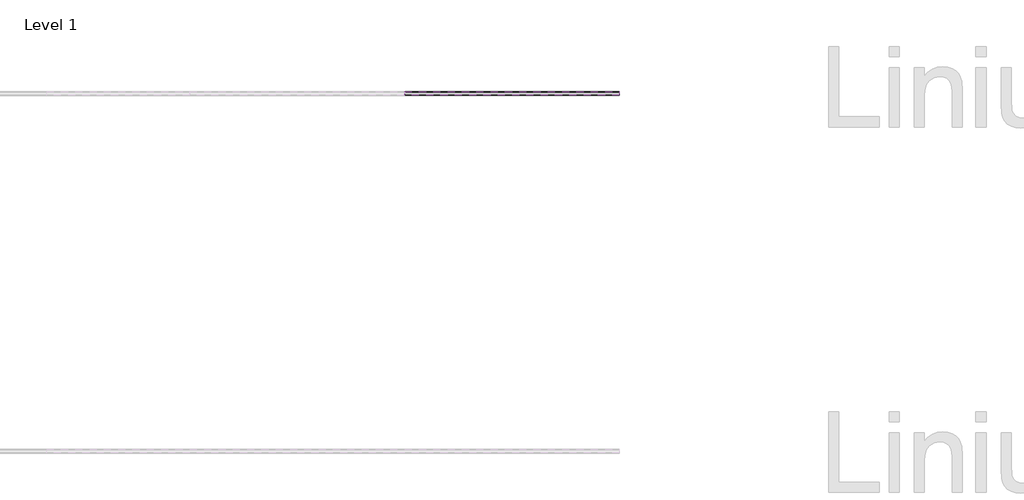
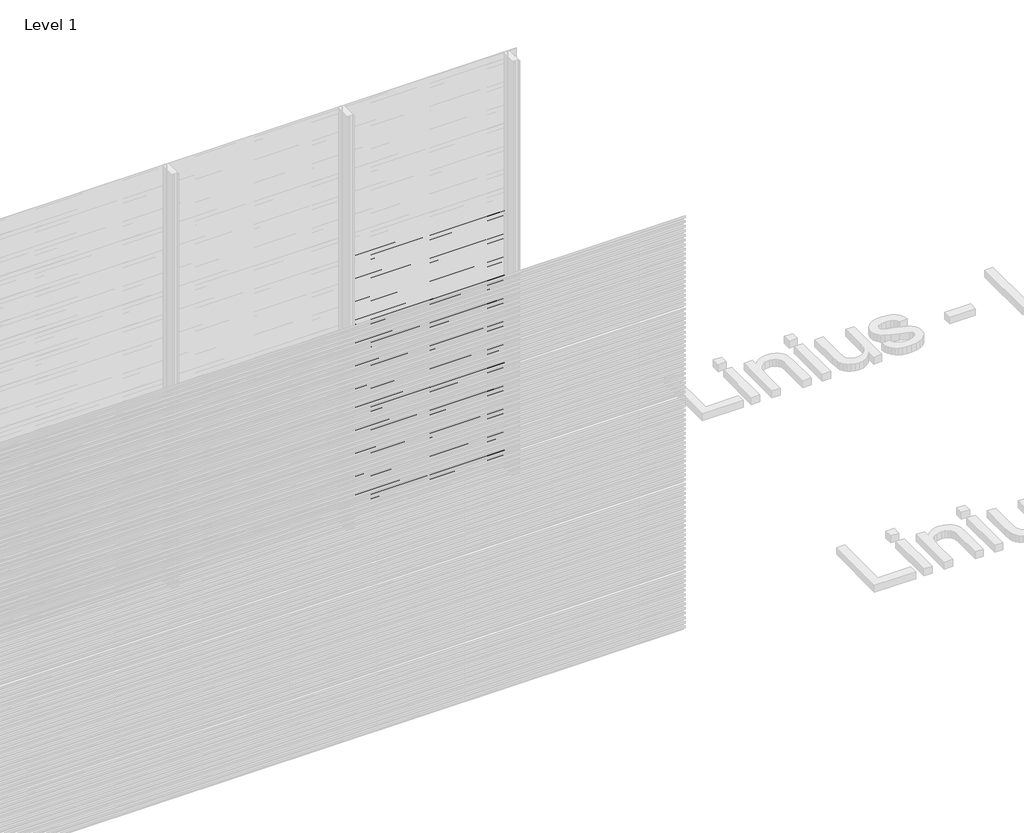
# One storey, part 28 of 507: 58 proxies.
"""IFC4 building model written with IfcOpenShell, lengths in millimetres."""

import ifcopenshell
import ifcopenshell.guid

model = None  # the IFC model being written
_history = None  # IfcOwnerHistory: only IFC2X3 demands one
_inside = {}  # id of a spatial element -> (the spatial element, [elements in it])
_under = {}  # id of a project, library or spatial element -> (it, [spatial elements below it])
_declared = {}  # id of a project -> (the project, [libraries it declares])
_typed = {}  # id of a type object -> (the type object, [elements of that type])
_made_of = {}  # id of a material, layer set ... -> (it, [elements and type objects made of it])


def new_model(schema):
    """Start an empty IFC model of exactly this schema.

    Asked for "IFC4X3", IfcOpenShell would pick the latest addendum, in which some entities
    have other attributes; the version numbers below select the first issue.
    IFC2X3 requires an IfcOwnerHistory on every rooted entity: one is made here for all.
    """
    global model, _history
    if schema == "IFC4X3":
        model = ifcopenshell.file(schema_version=(4, 3, 0, 0))
    else:
        model = ifcopenshell.file(schema=schema)
    _inside.clear()
    _under.clear()
    _declared.clear()
    _typed.clear()
    _made_of.clear()
    _history = None
    if model.schema == "IFC2X3":
        org = make("IfcOrganization", Name="unknown")
        user = make(
            "IfcPersonAndOrganization",
            ThePerson=make("IfcPerson", FamilyName="unknown"),
            TheOrganization=org,
        )
        app = make(
            "IfcApplication",
            ApplicationDeveloper=org,
            Version="unknown",
            ApplicationFullName="unknown",
            ApplicationIdentifier="unknown",
        )
        _history = make(
            "IfcOwnerHistory",
            OwningUser=user,
            OwningApplication=app,
            ChangeAction="ADDED",
            CreationDate=0,
        )
    return model


def make(cls, **values):
    """One entity of the class cls with the attributes given. An attribute that is None is left unset."""
    return model.create_entity(
        cls, **{name: value for name, value in values.items() if value is not None}
    )


def rooted(cls, **values):
    """An entity with a GlobalId (a new one), such as an element, a storey or a relation."""
    return make(cls, GlobalId=ifcopenshell.guid.new(), OwnerHistory=_history, **values)


def si_unit(unit_type, name, prefix=None):
    """IfcSIUnit, for example si_unit("LENGTHUNIT", "METRE", prefix="MILLI")."""
    return make("IfcSIUnit", UnitType=unit_type, Prefix=prefix, Name=name)


def assignment(units):
    """IfcUnitAssignment: the units of a project."""
    return None if units is None else make("IfcUnitAssignment", Units=units)


def point(xyz):
    """IfcCartesianPoint."""
    return None if xyz is None else make("IfcCartesianPoint", Coordinates=xyz)


def direction(xyz):
    """IfcDirection."""
    return None if xyz is None else make("IfcDirection", DirectionRatios=xyz)


def frame(location, z_axis=None, x_axis=None):
    """IfcAxis2Placement3D, a coordinate frame: its origin and axes. An axis left out is left unset."""
    return make(
        "IfcAxis2Placement3D",
        Location=point(location),
        Axis=direction(z_axis),
        RefDirection=direction(x_axis),
    )


def origin():
    """The frame at (0, 0, 0) with its axes left unset."""
    return frame((0.0, 0.0, 0.0))


def place(relative_to, where):
    """IfcLocalPlacement: puts the frame where relative to a parent placement (None: the world)."""
    return make(
        "IfcLocalPlacement", PlacementRelTo=relative_to, RelativePlacement=where
    )


def context(
    kind, dimensions, precision=None, world=None, true_north=None, identifier=None
):
    """IfcGeometricRepresentationContext, for example the 3D "Model" context."""
    return make(
        "IfcGeometricRepresentationContext",
        ContextIdentifier=identifier,
        ContextType=kind,
        CoordinateSpaceDimension=dimensions,
        Precision=precision,
        WorldCoordinateSystem=world,
        TrueNorth=true_north,
    )


def project(units=None, contexts=None):
    """IfcProject with its units and contexts."""
    return rooted(
        "IfcProject",
        Name="project",
        RepresentationContexts=contexts,
        UnitsInContext=assignment(units),
    )


def spatial(cls, under=None, at=None, **own):
    """A site, building, storey or space (cls), placed at a placement, below another one or the project."""
    s = rooted(cls, ObjectPlacement=at, **own)
    if under is not None:
        _under.setdefault(under.id(), (under, []))[1].append(s)
    return s


def polyline(points):
    """IfcPolyline through the points."""
    return make("IfcPolyline", Points=[point(p) for p in points])


def outline(outer, holes=None, kind="AREA"):
    """IfcArbitraryClosedProfileDef: a profile drawn as a closed curve; with holes, ...WithVoids."""
    if holes is None:
        return make("IfcArbitraryClosedProfileDef", ProfileType=kind, OuterCurve=outer)
    return make(
        "IfcArbitraryProfileDefWithVoids",
        ProfileType=kind,
        OuterCurve=outer,
        InnerCurves=holes,
    )


def extrude(swept, where, along, depth):
    """IfcExtrudedAreaSolid: the profile swept, set in the frame where, extruded along a direction by depth."""
    return make(
        "IfcExtrudedAreaSolid",
        SweptArea=swept,
        Position=where,
        ExtrudedDirection=direction(along),
        Depth=depth,
    )


def shape(context_of_items, identifier, shape_type, items):
    """IfcShapeRepresentation: the items that make up one representation, for example the "Body"."""
    return make(
        "IfcShapeRepresentation",
        ContextOfItems=context_of_items,
        RepresentationIdentifier=identifier,
        RepresentationType=shape_type,
        Items=items,
    )


def made_of(thing, what):
    """Note that an element or type object is made of a material, layer set ...; save() writes the relation."""
    if what is not None:
        _made_of.setdefault(what.id(), (what, []))[1].append(thing)
    return thing


def element(
    cls,
    number,
    at=None,
    inside=None,
    cuts=None,
    type_object=None,
    material=None,
    context=None,
    identifier="Body",
    shape_type=None,
    held_by="IfcProductDefinitionShape",
    body=None,
    shapes=None,
    **own,
):
    """One element of the class cls, such as IfcWall. Its Tag is "e" and its number.

    at: its placement. inside: the storey or other place that contains it. cuts: it is an
    opening in that element (IfcRelVoidsElement). A single representation is given by context,
    identifier, shape_type and body (its items); several are given by shapes. held_by: the class
    of the entity that holds the representations. save() writes the other relations.
    """
    e = rooted(cls, Tag="e%d" % number, ObjectPlacement=at, **own)
    if body is not None:
        shapes = [shape(context, identifier, shape_type, body)]
    if shapes is not None:
        e.Representation = make(held_by, Representations=shapes)
    if inside is not None:
        _inside.setdefault(inside.id(), (inside, []))[1].append(e)
    if cuts is not None:
        rooted(
            "IfcRelVoidsElement", RelatingBuildingElement=cuts, RelatedOpeningElement=e
        )
    if type_object is not None:
        _typed.setdefault(type_object.id(), (type_object, []))[1].append(e)
    return made_of(e, material)


def aggregate(whole, parts):
    """IfcRelAggregates: a whole, such as a stair, and the parts it consists of."""
    return rooted("IfcRelAggregates", RelatingObject=whole, RelatedObjects=parts)


def save(model, path):
    """Write the relations noted so far, then the file.

    IfcRelAggregates (storeys below a building ...), IfcRelContainedInSpatialStructure (elements
    in a storey), IfcRelDefinesByType, IfcRelAssociatesMaterial and IfcRelDeclares: one each for
    every whole, place, type object, material and project.
    """
    for whole, parts in _under.values():
        aggregate(whole, parts)
    for where, things in _inside.values():
        rooted(
            "IfcRelContainedInSpatialStructure",
            RelatedElements=things,
            RelatingStructure=where,
        )
    for kind, things in _typed.values():
        rooted("IfcRelDefinesByType", RelatedObjects=things, RelatingType=kind)
    for what, things in _made_of.values():
        rooted("IfcRelAssociatesMaterial", RelatedObjects=things, RelatingMaterial=what)
    for by, libraries in _declared.values():
        rooted("IfcRelDeclares", RelatingContext=by, RelatedDefinitions=libraries)
    model.write(path)


model = new_model("IFC4")

# Units and contexts
model_context = context("Model", 3, world=origin())
ifc_project = project(units=[si_unit("LENGTHUNIT", "METRE", prefix="MILLI")], contexts=[model_context])

# Site, building, storey
site = spatial("IfcSite", under=ifc_project)
building = spatial("IfcBuilding", under=site)
storey = spatial("IfcBuildingStorey", under=building, Name="Level 1", Elevation=0.0)

# Proxies
placement = place(None, origin())
element("IfcBuildingElementProxy", 1, Name="Wall Sweeps", at=placement, inside=storey, context=model_context, shape_type="SweptSolid", body=[
    extrude(outline(polyline([(14003.4540136, 1907.4), (14003.4540136, 1893.9), (14002.2040136, 1894.6216933), (14002.2040136, 1906.6782281), (13983.0540136, 1917.7345698), (13983.0540136, 1931.4), (13984.3040136, 1931.4), (13984.3040136, 1918.4562577), (14003.4540136, 1907.4)])), frame((49766.6208095, 0.0, 0.0), z_axis=(1.0, 0.0, 0.0), x_axis=(0.0, 1.0, 0.0)), (0.0, 0.0, 1.0), 1200.0000002),
])
element("IfcBuildingElementProxy", 2, Name="Wall Sweeps", at=placement, inside=storey, context=model_context, shape_type="SweptSolid", body=[
    extrude(outline(polyline([(14003.4540136, 1874.1), (14003.4540136, 1860.6), (14002.2040136, 1861.3216933), (14002.2040136, 1873.3782281), (13983.0540136, 1884.4345698), (13983.0540136, 1898.1), (13984.3040136, 1898.1), (13984.3040136, 1885.1562577), (14003.4540136, 1874.1)])), frame((49766.6208095, 0.0, 0.0), z_axis=(1.0, 0.0, 0.0), x_axis=(0.0, 1.0, 0.0)), (0.0, 0.0, 1.0), 1200.0000002),
])
element("IfcBuildingElementProxy", 3, Name="Wall Sweeps", at=placement, inside=storey, context=model_context, shape_type="SweptSolid", body=[
    extrude(outline(polyline([(14003.4540136, 1840.8), (14003.4540136, 1827.3), (14002.2040136, 1828.0216933), (14002.2040136, 1840.0782281), (13983.0540136, 1851.1345698), (13983.0540136, 1864.8), (13984.3040136, 1864.8), (13984.3040136, 1851.8562577), (14003.4540136, 1840.8)])), frame((49766.6208095, 0.0, 0.0), z_axis=(1.0, 0.0, 0.0), x_axis=(0.0, 1.0, 0.0)), (0.0, 0.0, 1.0), 1200.0000002),
])
element("IfcBuildingElementProxy", 4, Name="Wall Sweeps", at=placement, inside=storey, context=model_context, shape_type="SweptSolid", body=[
    extrude(outline(polyline([(14003.4540136, 1807.5), (14003.4540136, 1794.0), (14002.2040136, 1794.7216933), (14002.2040136, 1806.7782281), (13983.0540136, 1817.8345698), (13983.0540136, 1831.5), (13984.3040136, 1831.5), (13984.3040136, 1818.5562577), (14003.4540136, 1807.5)])), frame((49766.6208095, 0.0, 0.0), z_axis=(1.0, 0.0, 0.0), x_axis=(0.0, 1.0, 0.0)), (0.0, 0.0, 1.0), 1200.0000002),
])
element("IfcBuildingElementProxy", 5, Name="Wall Sweeps", at=placement, inside=storey, context=model_context, shape_type="SweptSolid", body=[
    extrude(outline(polyline([(14003.4540136, 1774.2), (14003.4540136, 1760.7), (14002.2040136, 1761.4216933), (14002.2040136, 1773.4782281), (13983.0540136, 1784.5345698), (13983.0540136, 1798.2), (13984.3040136, 1798.2), (13984.3040136, 1785.2562577), (14003.4540136, 1774.2)])), frame((49766.6208095, 0.0, 0.0), z_axis=(1.0, 0.0, 0.0), x_axis=(0.0, 1.0, 0.0)), (0.0, 0.0, 1.0), 1200.0000002),
])
element("IfcBuildingElementProxy", 6, Name="Wall Sweeps", at=placement, inside=storey, context=model_context, shape_type="SweptSolid", body=[
    extrude(outline(polyline([(14003.4540136, 1740.9), (14003.4540136, 1727.4), (14002.2040136, 1728.1216933), (14002.2040136, 1740.1782281), (13983.0540136, 1751.2345698), (13983.0540136, 1764.9), (13984.3040136, 1764.9), (13984.3040136, 1751.9562577), (14003.4540136, 1740.9)])), frame((49766.6208095, 0.0, 0.0), z_axis=(1.0, 0.0, 0.0), x_axis=(0.0, 1.0, 0.0)), (0.0, 0.0, 1.0), 1200.0000002),
])
element("IfcBuildingElementProxy", 7, Name="Wall Sweeps", at=placement, inside=storey, context=model_context, shape_type="SweptSolid", body=[
    extrude(outline(polyline([(14003.4540136, 1707.6), (14003.4540136, 1694.1), (14002.2040136, 1694.8216933), (14002.2040136, 1706.8782281), (13983.0540136, 1717.9345698), (13983.0540136, 1731.6), (13984.3040136, 1731.6), (13984.3040136, 1718.6562577), (14003.4540136, 1707.6)])), frame((49766.6208095, 0.0, 0.0), z_axis=(1.0, 0.0, 0.0), x_axis=(0.0, 1.0, 0.0)), (0.0, 0.0, 1.0), 1200.0000002),
])
element("IfcBuildingElementProxy", 8, Name="Wall Sweeps", at=placement, inside=storey, context=model_context, shape_type="SweptSolid", body=[
    extrude(outline(polyline([(14003.4540136, 1674.3), (14003.4540136, 1660.8), (14002.2040136, 1661.5216933), (14002.2040136, 1673.5782281), (13983.0540136, 1684.6345698), (13983.0540136, 1698.3), (13984.3040136, 1698.3), (13984.3040136, 1685.3562577), (14003.4540136, 1674.3)])), frame((49766.6208095, 0.0, 0.0), z_axis=(1.0, 0.0, 0.0), x_axis=(0.0, 1.0, 0.0)), (0.0, 0.0, 1.0), 1200.0000002),
])
element("IfcBuildingElementProxy", 9, Name="Wall Sweeps", at=placement, inside=storey, context=model_context, shape_type="SweptSolid", body=[
    extrude(outline(polyline([(14003.4540136, 1641.0), (14003.4540136, 1627.5), (14002.2040136, 1628.2216933), (14002.2040136, 1640.2782281), (13983.0540136, 1651.3345698), (13983.0540136, 1665.0), (13984.3040136, 1665.0), (13984.3040136, 1652.0562577), (14003.4540136, 1641.0)])), frame((49766.6208095, 0.0, 0.0), z_axis=(1.0, 0.0, 0.0), x_axis=(0.0, 1.0, 0.0)), (0.0, 0.0, 1.0), 1200.0000002),
])
element("IfcBuildingElementProxy", 10, Name="Wall Sweeps", at=placement, inside=storey, context=model_context, shape_type="SweptSolid", body=[
    extrude(outline(polyline([(14003.4540136, 1607.7), (14003.4540136, 1594.2), (14002.2040136, 1594.9216933), (14002.2040136, 1606.9782281), (13983.0540136, 1618.0345698), (13983.0540136, 1631.7), (13984.3040136, 1631.7), (13984.3040136, 1618.7562577), (14003.4540136, 1607.7)])), frame((49766.6208095, 0.0, 0.0), z_axis=(1.0, 0.0, 0.0), x_axis=(0.0, 1.0, 0.0)), (0.0, 0.0, 1.0), 1200.0000002),
])
element("IfcBuildingElementProxy", 11, Name="Wall Sweeps", at=placement, inside=storey, context=model_context, shape_type="SweptSolid", body=[
    extrude(outline(polyline([(14003.4540136, 1574.4), (14003.4540136, 1560.9), (14002.2040136, 1561.6216933), (14002.2040136, 1573.6782281), (13983.0540136, 1584.7345698), (13983.0540136, 1598.4), (13984.3040136, 1598.4), (13984.3040136, 1585.4562577), (14003.4540136, 1574.4)])), frame((49766.6208095, 0.0, 0.0), z_axis=(1.0, 0.0, 0.0), x_axis=(0.0, 1.0, 0.0)), (0.0, 0.0, 1.0), 1200.0000002),
])
element("IfcBuildingElementProxy", 12, Name="Wall Sweeps", at=placement, inside=storey, context=model_context, shape_type="SweptSolid", body=[
    extrude(outline(polyline([(14003.4540136, 1541.1), (14003.4540136, 1527.6), (14002.2040136, 1528.3216933), (14002.2040136, 1540.3782281), (13983.0540136, 1551.4345698), (13983.0540136, 1565.1), (13984.3040136, 1565.1), (13984.3040136, 1552.1562577), (14003.4540136, 1541.1)])), frame((49766.6208095, 0.0, 0.0), z_axis=(1.0, 0.0, 0.0), x_axis=(0.0, 1.0, 0.0)), (0.0, 0.0, 1.0), 1200.0000002),
])
element("IfcBuildingElementProxy", 13, Name="Wall Sweeps", at=placement, inside=storey, context=model_context, shape_type="SweptSolid", body=[
    extrude(outline(polyline([(14003.4540136, 1507.8), (14003.4540136, 1494.3), (14002.2040136, 1495.0216933), (14002.2040136, 1507.0782281), (13983.0540136, 1518.1345698), (13983.0540136, 1531.8), (13984.3040136, 1531.8), (13984.3040136, 1518.8562577), (14003.4540136, 1507.8)])), frame((49766.6208095, 0.0, 0.0), z_axis=(1.0, 0.0, 0.0), x_axis=(0.0, 1.0, 0.0)), (0.0, 0.0, 1.0), 1200.0000002),
])
element("IfcBuildingElementProxy", 14, Name="Wall Sweeps", at=placement, inside=storey, context=model_context, shape_type="SweptSolid", body=[
    extrude(outline(polyline([(14003.4540136, 1474.5), (14003.4540136, 1461.0), (14002.2040136, 1461.7216933), (14002.2040136, 1473.7782281), (13983.0540136, 1484.8345698), (13983.0540136, 1498.5), (13984.3040136, 1498.5), (13984.3040136, 1485.5562577), (14003.4540136, 1474.5)])), frame((49766.6208095, 0.0, 0.0), z_axis=(1.0, 0.0, 0.0), x_axis=(0.0, 1.0, 0.0)), (0.0, 0.0, 1.0), 1200.0000002),
])
element("IfcBuildingElementProxy", 15, Name="Wall Sweeps", at=placement, inside=storey, context=model_context, shape_type="SweptSolid", body=[
    extrude(outline(polyline([(14003.4540136, 1441.2), (14003.4540136, 1427.7), (14002.2040136, 1428.4216933), (14002.2040136, 1440.4782281), (13983.0540136, 1451.5345698), (13983.0540136, 1465.2), (13984.3040136, 1465.2), (13984.3040136, 1452.2562577), (14003.4540136, 1441.2)])), frame((49766.6208095, 0.0, 0.0), z_axis=(1.0, 0.0, 0.0), x_axis=(0.0, 1.0, 0.0)), (0.0, 0.0, 1.0), 1200.0000002),
])
element("IfcBuildingElementProxy", 16, Name="Wall Sweeps", at=placement, inside=storey, context=model_context, shape_type="SweptSolid", body=[
    extrude(outline(polyline([(14003.4540136, 1407.9), (14003.4540136, 1394.4), (14002.2040136, 1395.1216933), (14002.2040136, 1407.1782281), (13983.0540136, 1418.2345698), (13983.0540136, 1431.9), (13984.3040136, 1431.9), (13984.3040136, 1418.9562577), (14003.4540136, 1407.9)])), frame((49766.6208095, 0.0, 0.0), z_axis=(1.0, 0.0, 0.0), x_axis=(0.0, 1.0, 0.0)), (0.0, 0.0, 1.0), 1200.0000002),
])
element("IfcBuildingElementProxy", 17, Name="Wall Sweeps", at=placement, inside=storey, context=model_context, shape_type="SweptSolid", body=[
    extrude(outline(polyline([(14003.4540136, 1374.6), (14003.4540136, 1361.1), (14002.2040136, 1361.8216933), (14002.2040136, 1373.8782281), (13983.0540136, 1384.9345698), (13983.0540136, 1398.6), (13984.3040136, 1398.6), (13984.3040136, 1385.6562577), (14003.4540136, 1374.6)])), frame((49766.6208095, 0.0, 0.0), z_axis=(1.0, 0.0, 0.0), x_axis=(0.0, 1.0, 0.0)), (0.0, 0.0, 1.0), 1200.0000002),
])
element("IfcBuildingElementProxy", 18, Name="Wall Sweeps", at=placement, inside=storey, context=model_context, shape_type="SweptSolid", body=[
    extrude(outline(polyline([(14003.4540136, 1341.3), (14003.4540136, 1327.8), (14002.2040136, 1328.5216933), (14002.2040136, 1340.5782281), (13983.0540136, 1351.6345698), (13983.0540136, 1365.3), (13984.3040136, 1365.3), (13984.3040136, 1352.3562577), (14003.4540136, 1341.3)])), frame((49766.6208095, 0.0, 0.0), z_axis=(1.0, 0.0, 0.0), x_axis=(0.0, 1.0, 0.0)), (0.0, 0.0, 1.0), 1200.0000002),
])
element("IfcBuildingElementProxy", 19, Name="Wall Sweeps", at=placement, inside=storey, context=model_context, shape_type="SweptSolid", body=[
    extrude(outline(polyline([(14003.4540136, 1308.0), (14003.4540136, 1294.5), (14002.2040136, 1295.2216933), (14002.2040136, 1307.2782281), (13983.0540136, 1318.3345698), (13983.0540136, 1332.0), (13984.3040136, 1332.0), (13984.3040136, 1319.0562577), (14003.4540136, 1308.0)])), frame((49766.6208095, 0.0, 0.0), z_axis=(1.0, 0.0, 0.0), x_axis=(0.0, 1.0, 0.0)), (0.0, 0.0, 1.0), 1200.0000002),
])
element("IfcBuildingElementProxy", 20, Name="Wall Sweeps", at=placement, inside=storey, context=model_context, shape_type="SweptSolid", body=[
    extrude(outline(polyline([(14003.4540136, 1274.7), (14003.4540136, 1261.2), (14002.2040136, 1261.9216933), (14002.2040136, 1273.9782281), (13983.0540136, 1285.0345698), (13983.0540136, 1298.7), (13984.3040136, 1298.7), (13984.3040136, 1285.7562577), (14003.4540136, 1274.7)])), frame((49766.6208095, 0.0, 0.0), z_axis=(1.0, 0.0, 0.0), x_axis=(0.0, 1.0, 0.0)), (0.0, 0.0, 1.0), 1200.0000002),
])
element("IfcBuildingElementProxy", 21, Name="Wall Sweeps", at=placement, inside=storey, context=model_context, shape_type="SweptSolid", body=[
    extrude(outline(polyline([(14003.4540136, 1241.4), (14003.4540136, 1227.9), (14002.2040136, 1228.6216933), (14002.2040136, 1240.6782281), (13983.0540136, 1251.7345698), (13983.0540136, 1265.4), (13984.3040136, 1265.4), (13984.3040136, 1252.4562577), (14003.4540136, 1241.4)])), frame((49766.6208095, 0.0, 0.0), z_axis=(1.0, 0.0, 0.0), x_axis=(0.0, 1.0, 0.0)), (0.0, 0.0, 1.0), 1200.0000002),
])
element("IfcBuildingElementProxy", 22, Name="Wall Sweeps", at=placement, inside=storey, context=model_context, shape_type="SweptSolid", body=[
    extrude(outline(polyline([(14003.4540136, 1208.1), (14003.4540136, 1194.6), (14002.2040136, 1195.3216933), (14002.2040136, 1207.3782281), (13983.0540136, 1218.4345698), (13983.0540136, 1232.1), (13984.3040136, 1232.1), (13984.3040136, 1219.1562577), (14003.4540136, 1208.1)])), frame((49766.6208095, 0.0, 0.0), z_axis=(1.0, 0.0, 0.0), x_axis=(0.0, 1.0, 0.0)), (0.0, 0.0, 1.0), 1200.0000002),
])
element("IfcBuildingElementProxy", 23, Name="Wall Sweeps", at=placement, inside=storey, context=model_context, shape_type="SweptSolid", body=[
    extrude(outline(polyline([(14003.4540136, 1174.8), (14003.4540136, 1161.3), (14002.2040136, 1162.0216933), (14002.2040136, 1174.0782281), (13983.0540136, 1185.1345698), (13983.0540136, 1198.8), (13984.3040136, 1198.8), (13984.3040136, 1185.8562577), (14003.4540136, 1174.8)])), frame((49766.6208095, 0.0, 0.0), z_axis=(1.0, 0.0, 0.0), x_axis=(0.0, 1.0, 0.0)), (0.0, 0.0, 1.0), 1200.0000002),
])
element("IfcBuildingElementProxy", 24, Name="Wall Sweeps", at=placement, inside=storey, context=model_context, shape_type="SweptSolid", body=[
    extrude(outline(polyline([(14003.4540136, 1141.5), (14003.4540136, 1128.0), (14002.2040136, 1128.7216933), (14002.2040136, 1140.7782281), (13983.0540136, 1151.8345698), (13983.0540136, 1165.5), (13984.3040136, 1165.5), (13984.3040136, 1152.5562577), (14003.4540136, 1141.5)])), frame((49766.6208095, 0.0, 0.0), z_axis=(1.0, 0.0, 0.0), x_axis=(0.0, 1.0, 0.0)), (0.0, 0.0, 1.0), 1200.0000002),
])
element("IfcBuildingElementProxy", 25, Name="Wall Sweeps", at=placement, inside=storey, context=model_context, shape_type="SweptSolid", body=[
    extrude(outline(polyline([(14003.4540136, 1108.2), (14003.4540136, 1094.7), (14002.2040136, 1095.4216933), (14002.2040136, 1107.4782281), (13983.0540136, 1118.5345698), (13983.0540136, 1132.2), (13984.3040136, 1132.2), (13984.3040136, 1119.2562577), (14003.4540136, 1108.2)])), frame((49766.6208095, 0.0, 0.0), z_axis=(1.0, 0.0, 0.0), x_axis=(0.0, 1.0, 0.0)), (0.0, 0.0, 1.0), 1200.0000002),
])
element("IfcBuildingElementProxy", 26, Name="Wall Sweeps", at=placement, inside=storey, context=model_context, shape_type="SweptSolid", body=[
    extrude(outline(polyline([(14003.4540136, 1074.9), (14003.4540136, 1061.4), (14002.2040136, 1062.1216933), (14002.2040136, 1074.1782281), (13983.0540136, 1085.2345698), (13983.0540136, 1098.9), (13984.3040136, 1098.9), (13984.3040136, 1085.9562577), (14003.4540136, 1074.9)])), frame((49766.6208095, 0.0, 0.0), z_axis=(1.0, 0.0, 0.0), x_axis=(0.0, 1.0, 0.0)), (0.0, 0.0, 1.0), 1200.0000002),
])
element("IfcBuildingElementProxy", 27, Name="Wall Sweeps", at=placement, inside=storey, context=model_context, shape_type="SweptSolid", body=[
    extrude(outline(polyline([(14003.4540136, 1041.6), (14003.4540136, 1028.1), (14002.2040136, 1028.8216933), (14002.2040136, 1040.8782281), (13983.0540136, 1051.9345698), (13983.0540136, 1065.6), (13984.3040136, 1065.6), (13984.3040136, 1052.6562577), (14003.4540136, 1041.6)])), frame((49766.6208095, 0.0, 0.0), z_axis=(1.0, 0.0, 0.0), x_axis=(0.0, 1.0, 0.0)), (0.0, 0.0, 1.0), 1200.0000002),
])
element("IfcBuildingElementProxy", 28, Name="Wall Sweeps", at=placement, inside=storey, context=model_context, shape_type="SweptSolid", body=[
    extrude(outline(polyline([(14003.4540136, 1008.3), (14003.4540136, 994.8), (14002.2040136, 995.5216933), (14002.2040136, 1007.5782281), (13983.0540136, 1018.6345698), (13983.0540136, 1032.3), (13984.3040136, 1032.3), (13984.3040136, 1019.3562577), (14003.4540136, 1008.3)])), frame((49766.6208095, 0.0, 0.0), z_axis=(1.0, 0.0, 0.0), x_axis=(0.0, 1.0, 0.0)), (0.0, 0.0, 1.0), 1200.0000002),
])
element("IfcBuildingElementProxy", 29, Name="Wall Sweeps", at=placement, inside=storey, context=model_context, shape_type="SweptSolid", body=[
    extrude(outline(polyline([(14003.4540136, 975.0), (14003.4540136, 961.5), (14002.2040136, 962.2216933), (14002.2040136, 974.2782281), (13983.0540136, 985.3345698), (13983.0540136, 999.0), (13984.3040136, 999.0), (13984.3040136, 986.0562577), (14003.4540136, 975.0)])), frame((49766.6208095, 0.0, 0.0), z_axis=(1.0, 0.0, 0.0), x_axis=(0.0, 1.0, 0.0)), (0.0, 0.0, 1.0), 1200.0000002),
])
element("IfcBuildingElementProxy", 30, Name="Wall Sweeps", at=placement, inside=storey, context=model_context, shape_type="SweptSolid", body=[
    extrude(outline(polyline([(14003.4540136, 941.7), (14003.4540136, 928.2), (14002.2040136, 928.9216933), (14002.2040136, 940.9782281), (13983.0540136, 952.0345698), (13983.0540136, 965.7), (13984.3040136, 965.7), (13984.3040136, 952.7562577), (14003.4540136, 941.7)])), frame((49766.6208095, 0.0, 0.0), z_axis=(1.0, 0.0, 0.0), x_axis=(0.0, 1.0, 0.0)), (0.0, 0.0, 1.0), 1200.0000002),
])
element("IfcBuildingElementProxy", 31, Name="Wall Sweeps", at=placement, inside=storey, context=model_context, shape_type="SweptSolid", body=[
    extrude(outline(polyline([(14003.4540136, 908.4), (14003.4540136, 894.9), (14002.2040136, 895.6216933), (14002.2040136, 907.6782281), (13983.0540136, 918.7345698), (13983.0540136, 932.4), (13984.3040136, 932.4), (13984.3040136, 919.4562577), (14003.4540136, 908.4)])), frame((49766.6208095, 0.0, 0.0), z_axis=(1.0, 0.0, 0.0), x_axis=(0.0, 1.0, 0.0)), (0.0, 0.0, 1.0), 1200.0000002),
])
element("IfcBuildingElementProxy", 32, Name="Wall Sweeps", at=placement, inside=storey, context=model_context, shape_type="SweptSolid", body=[
    extrude(outline(polyline([(14003.4540136, 875.1), (14003.4540136, 861.6), (14002.2040136, 862.3216933), (14002.2040136, 874.3782281), (13983.0540136, 885.4345698), (13983.0540136, 899.1), (13984.3040136, 899.1), (13984.3040136, 886.1562577), (14003.4540136, 875.1)])), frame((49766.6208095, 0.0, 0.0), z_axis=(1.0, 0.0, 0.0), x_axis=(0.0, 1.0, 0.0)), (0.0, 0.0, 1.0), 1200.0000002),
])
element("IfcBuildingElementProxy", 33, Name="Wall Sweeps", at=placement, inside=storey, context=model_context, shape_type="SweptSolid", body=[
    extrude(outline(polyline([(14003.4540136, 841.8), (14003.4540136, 828.3), (14002.2040136, 829.0216933), (14002.2040136, 841.0782281), (13983.0540136, 852.1345698), (13983.0540136, 865.8), (13984.3040136, 865.8), (13984.3040136, 852.8562577), (14003.4540136, 841.8)])), frame((49766.6208095, 0.0, 0.0), z_axis=(1.0, 0.0, 0.0), x_axis=(0.0, 1.0, 0.0)), (0.0, 0.0, 1.0), 1200.0000002),
])
element("IfcBuildingElementProxy", 34, Name="Wall Sweeps", at=placement, inside=storey, context=model_context, shape_type="SweptSolid", body=[
    extrude(outline(polyline([(14003.4540136, 808.5), (14003.4540136, 795.0), (14002.2040136, 795.7216933), (14002.2040136, 807.7782281), (13983.0540136, 818.8345698), (13983.0540136, 832.5), (13984.3040136, 832.5), (13984.3040136, 819.5562577), (14003.4540136, 808.5)])), frame((49766.6208095, 0.0, 0.0), z_axis=(1.0, 0.0, 0.0), x_axis=(0.0, 1.0, 0.0)), (0.0, 0.0, 1.0), 1200.0000002),
])
element("IfcBuildingElementProxy", 35, Name="Wall Sweeps", at=placement, inside=storey, context=model_context, shape_type="SweptSolid", body=[
    extrude(outline(polyline([(14003.4540136, 775.2), (14003.4540136, 761.7), (14002.2040136, 762.4216933), (14002.2040136, 774.4782281), (13983.0540136, 785.5345698), (13983.0540136, 799.2), (13984.3040136, 799.2), (13984.3040136, 786.2562577), (14003.4540136, 775.2)])), frame((49766.6208095, 0.0, 0.0), z_axis=(1.0, 0.0, 0.0), x_axis=(0.0, 1.0, 0.0)), (0.0, 0.0, 1.0), 1200.0000002),
])
element("IfcBuildingElementProxy", 36, Name="Wall Sweeps", at=placement, inside=storey, context=model_context, shape_type="SweptSolid", body=[
    extrude(outline(polyline([(14003.4540136, 741.9), (14003.4540136, 728.4), (14002.2040136, 729.1216933), (14002.2040136, 741.1782281), (13983.0540136, 752.2345698), (13983.0540136, 765.9), (13984.3040136, 765.9), (13984.3040136, 752.9562577), (14003.4540136, 741.9)])), frame((49766.6208095, 0.0, 0.0), z_axis=(1.0, 0.0, 0.0), x_axis=(0.0, 1.0, 0.0)), (0.0, 0.0, 1.0), 1200.0000002),
])
element("IfcBuildingElementProxy", 37, Name="Wall Sweeps", at=placement, inside=storey, context=model_context, shape_type="SweptSolid", body=[
    extrude(outline(polyline([(14003.4540136, 708.6), (14003.4540136, 695.1), (14002.2040136, 695.8216933), (14002.2040136, 707.8782281), (13983.0540136, 718.9345698), (13983.0540136, 732.6), (13984.3040136, 732.6), (13984.3040136, 719.6562577), (14003.4540136, 708.6)])), frame((49766.6208095, 0.0, 0.0), z_axis=(1.0, 0.0, 0.0), x_axis=(0.0, 1.0, 0.0)), (0.0, 0.0, 1.0), 1200.0000002),
])
element("IfcBuildingElementProxy", 38, Name="Wall Sweeps", at=placement, inside=storey, context=model_context, shape_type="SweptSolid", body=[
    extrude(outline(polyline([(14003.4540136, 675.3), (14003.4540136, 661.8), (14002.2040136, 662.5216933), (14002.2040136, 674.5782281), (13983.0540136, 685.6345698), (13983.0540136, 699.3), (13984.3040136, 699.3), (13984.3040136, 686.3562577), (14003.4540136, 675.3)])), frame((49766.6208095, 0.0, 0.0), z_axis=(1.0, 0.0, 0.0), x_axis=(0.0, 1.0, 0.0)), (0.0, 0.0, 1.0), 1200.0000002),
])
element("IfcBuildingElementProxy", 39, Name="Wall Sweeps", at=placement, inside=storey, context=model_context, shape_type="SweptSolid", body=[
    extrude(outline(polyline([(14003.4540136, 642.0), (14003.4540136, 628.5), (14002.2040136, 629.2216933), (14002.2040136, 641.2782281), (13983.0540136, 652.3345698), (13983.0540136, 666.0), (13984.3040136, 666.0), (13984.3040136, 653.0562577), (14003.4540136, 642.0)])), frame((49766.6208095, 0.0, 0.0), z_axis=(1.0, 0.0, 0.0), x_axis=(0.0, 1.0, 0.0)), (0.0, 0.0, 1.0), 1200.0000002),
])
element("IfcBuildingElementProxy", 40, Name="Wall Sweeps", at=placement, inside=storey, context=model_context, shape_type="SweptSolid", body=[
    extrude(outline(polyline([(14003.4540136, 608.7), (14003.4540136, 595.2), (14002.2040136, 595.9216933), (14002.2040136, 607.9782281), (13983.0540136, 619.0345698), (13983.0540136, 632.7), (13984.3040136, 632.7), (13984.3040136, 619.7562577), (14003.4540136, 608.7)])), frame((49766.6208095, 0.0, 0.0), z_axis=(1.0, 0.0, 0.0), x_axis=(0.0, 1.0, 0.0)), (0.0, 0.0, 1.0), 1200.0000002),
])
element("IfcBuildingElementProxy", 41, Name="Wall Sweeps", at=placement, inside=storey, context=model_context, shape_type="SweptSolid", body=[
    extrude(outline(polyline([(14003.4540136, 575.4), (14003.4540136, 561.9), (14002.2040136, 562.6216933), (14002.2040136, 574.6782281), (13983.0540136, 585.7345698), (13983.0540136, 599.4), (13984.3040136, 599.4), (13984.3040136, 586.4562577), (14003.4540136, 575.4)])), frame((49766.6208095, 0.0, 0.0), z_axis=(1.0, 0.0, 0.0), x_axis=(0.0, 1.0, 0.0)), (0.0, 0.0, 1.0), 1200.0000002),
])
element("IfcBuildingElementProxy", 42, Name="Wall Sweeps", at=placement, inside=storey, context=model_context, shape_type="SweptSolid", body=[
    extrude(outline(polyline([(14003.4540136, 542.1), (14003.4540136, 528.6), (14002.2040136, 529.3216933), (14002.2040136, 541.3782281), (13983.0540136, 552.4345698), (13983.0540136, 566.1), (13984.3040136, 566.1), (13984.3040136, 553.1562577), (14003.4540136, 542.1)])), frame((49766.6208095, 0.0, 0.0), z_axis=(1.0, 0.0, 0.0), x_axis=(0.0, 1.0, 0.0)), (0.0, 0.0, 1.0), 1200.0000002),
])
element("IfcBuildingElementProxy", 43, Name="Wall Sweeps", at=placement, inside=storey, context=model_context, shape_type="SweptSolid", body=[
    extrude(outline(polyline([(14003.4540136, 508.8), (14003.4540136, 495.3), (14002.2040136, 496.0216933), (14002.2040136, 508.0782281), (13983.0540136, 519.1345698), (13983.0540136, 532.8), (13984.3040136, 532.8), (13984.3040136, 519.8562577), (14003.4540136, 508.8)])), frame((49766.6208095, 0.0, 0.0), z_axis=(1.0, 0.0, 0.0), x_axis=(0.0, 1.0, 0.0)), (0.0, 0.0, 1.0), 1200.0000002),
])
element("IfcBuildingElementProxy", 44, Name="Wall Sweeps", at=placement, inside=storey, context=model_context, shape_type="SweptSolid", body=[
    extrude(outline(polyline([(14003.4540136, 475.5), (14003.4540136, 462.0), (14002.2040136, 462.7216933), (14002.2040136, 474.7782281), (13983.0540136, 485.8345698), (13983.0540136, 499.5), (13984.3040136, 499.5), (13984.3040136, 486.5562577), (14003.4540136, 475.5)])), frame((49766.6208095, 0.0, 0.0), z_axis=(1.0, 0.0, 0.0), x_axis=(0.0, 1.0, 0.0)), (0.0, 0.0, 1.0), 1200.0000002),
])
element("IfcBuildingElementProxy", 45, Name="Wall Sweeps", at=placement, inside=storey, context=model_context, shape_type="SweptSolid", body=[
    extrude(outline(polyline([(14003.4540136, 442.2), (14003.4540136, 428.7), (14002.2040136, 429.4216933), (14002.2040136, 441.4782281), (13983.0540136, 452.5345698), (13983.0540136, 466.2), (13984.3040136, 466.2), (13984.3040136, 453.2562577), (14003.4540136, 442.2)])), frame((49766.6208095, 0.0, 0.0), z_axis=(1.0, 0.0, 0.0), x_axis=(0.0, 1.0, 0.0)), (0.0, 0.0, 1.0), 1200.0000002),
])
element("IfcBuildingElementProxy", 46, Name="Wall Sweeps", at=placement, inside=storey, context=model_context, shape_type="SweptSolid", body=[
    extrude(outline(polyline([(14003.4540136, 408.9), (14003.4540136, 395.4), (14002.2040136, 396.1216933), (14002.2040136, 408.1782281), (13983.0540136, 419.2345698), (13983.0540136, 432.9), (13984.3040136, 432.9), (13984.3040136, 419.9562577), (14003.4540136, 408.9)])), frame((49766.6208095, 0.0, 0.0), z_axis=(1.0, 0.0, 0.0), x_axis=(0.0, 1.0, 0.0)), (0.0, 0.0, 1.0), 1200.0000002),
])
element("IfcBuildingElementProxy", 47, Name="Wall Sweeps", at=placement, inside=storey, context=model_context, shape_type="SweptSolid", body=[
    extrude(outline(polyline([(14003.4540136, 375.6), (14003.4540136, 362.1), (14002.2040136, 362.8216933), (14002.2040136, 374.8782281), (13983.0540136, 385.9345698), (13983.0540136, 399.6), (13984.3040136, 399.6), (13984.3040136, 386.6562577), (14003.4540136, 375.6)])), frame((49766.6208095, 0.0, 0.0), z_axis=(1.0, 0.0, 0.0), x_axis=(0.0, 1.0, 0.0)), (0.0, 0.0, 1.0), 1200.0000002),
])
element("IfcBuildingElementProxy", 48, Name="Wall Sweeps", at=placement, inside=storey, context=model_context, shape_type="SweptSolid", body=[
    extrude(outline(polyline([(14003.4540136, 342.3), (14003.4540136, 328.8), (14002.2040136, 329.5216933), (14002.2040136, 341.5782281), (13983.0540136, 352.6345698), (13983.0540136, 366.3), (13984.3040136, 366.3), (13984.3040136, 353.3562577), (14003.4540136, 342.3)])), frame((49766.6208095, 0.0, 0.0), z_axis=(1.0, 0.0, 0.0), x_axis=(0.0, 1.0, 0.0)), (0.0, 0.0, 1.0), 1200.0000002),
])
element("IfcBuildingElementProxy", 49, Name="Wall Sweeps", at=placement, inside=storey, context=model_context, shape_type="SweptSolid", body=[
    extrude(outline(polyline([(14003.4540136, 309.0), (14003.4540136, 295.5), (14002.2040136, 296.2216933), (14002.2040136, 308.2782281), (13983.0540136, 319.3345698), (13983.0540136, 333.0), (13984.3040136, 333.0), (13984.3040136, 320.0562577), (14003.4540136, 309.0)])), frame((49766.6208095, 0.0, 0.0), z_axis=(1.0, 0.0, 0.0), x_axis=(0.0, 1.0, 0.0)), (0.0, 0.0, 1.0), 1200.0000002),
])
element("IfcBuildingElementProxy", 50, Name="Wall Sweeps", at=placement, inside=storey, context=model_context, shape_type="SweptSolid", body=[
    extrude(outline(polyline([(14003.4540136, 275.7), (14003.4540136, 262.2), (14002.2040136, 262.9216933), (14002.2040136, 274.9782281), (13983.0540136, 286.0345698), (13983.0540136, 299.7), (13984.3040136, 299.7), (13984.3040136, 286.7562577), (14003.4540136, 275.7)])), frame((49766.6208095, 0.0, 0.0), z_axis=(1.0, 0.0, 0.0), x_axis=(0.0, 1.0, 0.0)), (0.0, 0.0, 1.0), 1200.0000002),
])
element("IfcBuildingElementProxy", 51, Name="Wall Sweeps", at=placement, inside=storey, context=model_context, shape_type="SweptSolid", body=[
    extrude(outline(polyline([(14003.4540136, 242.4), (14003.4540136, 228.9), (14002.2040136, 229.6216933), (14002.2040136, 241.6782281), (13983.0540136, 252.7345698), (13983.0540136, 266.4), (13984.3040136, 266.4), (13984.3040136, 253.4562577), (14003.4540136, 242.4)])), frame((49766.6208095, 0.0, 0.0), z_axis=(1.0, 0.0, 0.0), x_axis=(0.0, 1.0, 0.0)), (0.0, 0.0, 1.0), 1200.0000002),
])
element("IfcBuildingElementProxy", 52, Name="Wall Sweeps", at=placement, inside=storey, context=model_context, shape_type="SweptSolid", body=[
    extrude(outline(polyline([(14003.4540136, 209.1), (14003.4540136, 195.6), (14002.2040136, 196.3216933), (14002.2040136, 208.3782281), (13983.0540136, 219.4345698), (13983.0540136, 233.1), (13984.3040136, 233.1), (13984.3040136, 220.1562577), (14003.4540136, 209.1)])), frame((49766.6208095, 0.0, 0.0), z_axis=(1.0, 0.0, 0.0), x_axis=(0.0, 1.0, 0.0)), (0.0, 0.0, 1.0), 1200.0000002),
])
element("IfcBuildingElementProxy", 53, Name="Wall Sweeps", at=placement, inside=storey, context=model_context, shape_type="SweptSolid", body=[
    extrude(outline(polyline([(14003.4540136, 175.8), (14003.4540136, 162.3), (14002.2040136, 163.0216933), (14002.2040136, 175.0782281), (13983.0540136, 186.1345698), (13983.0540136, 199.8), (13984.3040136, 199.8), (13984.3040136, 186.8562577), (14003.4540136, 175.8)])), frame((49766.6208095, 0.0, 0.0), z_axis=(1.0, 0.0, 0.0), x_axis=(0.0, 1.0, 0.0)), (0.0, 0.0, 1.0), 1200.0000002),
])
element("IfcBuildingElementProxy", 54, Name="Wall Sweeps", at=placement, inside=storey, context=model_context, shape_type="SweptSolid", body=[
    extrude(outline(polyline([(14003.4540136, 142.5), (14003.4540136, 129.0), (14002.2040136, 129.7216933), (14002.2040136, 141.7782281), (13983.0540136, 152.8345698), (13983.0540136, 166.5), (13984.3040136, 166.5), (13984.3040136, 153.5562577), (14003.4540136, 142.5)])), frame((49766.6208095, 0.0, 0.0), z_axis=(1.0, 0.0, 0.0), x_axis=(0.0, 1.0, 0.0)), (0.0, 0.0, 1.0), 1200.0000002),
])
element("IfcBuildingElementProxy", 55, Name="Wall Sweeps", at=placement, inside=storey, context=model_context, shape_type="SweptSolid", body=[
    extrude(outline(polyline([(14003.4540136, 109.2), (14003.4540136, 95.7), (14002.2040136, 96.4216933), (14002.2040136, 108.4782281), (13983.0540136, 119.5345698), (13983.0540136, 133.2), (13984.3040136, 133.2), (13984.3040136, 120.2562577), (14003.4540136, 109.2)])), frame((49766.6208095, 0.0, 0.0), z_axis=(1.0, 0.0, 0.0), x_axis=(0.0, 1.0, 0.0)), (0.0, 0.0, 1.0), 1200.0000002),
])
element("IfcBuildingElementProxy", 56, Name="Wall Sweeps", at=placement, inside=storey, context=model_context, shape_type="SweptSolid", body=[
    extrude(outline(polyline([(14003.4540136, 75.9), (14003.4540136, 62.4), (14002.2040136, 63.1216933), (14002.2040136, 75.1782281), (13983.0540136, 86.2345698), (13983.0540136, 99.9), (13984.3040136, 99.9), (13984.3040136, 86.9562577), (14003.4540136, 75.9)])), frame((49766.6208095, 0.0, 0.0), z_axis=(1.0, 0.0, 0.0), x_axis=(0.0, 1.0, 0.0)), (0.0, 0.0, 1.0), 1200.0000002),
])
element("IfcBuildingElementProxy", 57, Name="Wall Sweeps", at=placement, inside=storey, context=model_context, shape_type="SweptSolid", body=[
    extrude(outline(polyline([(14003.4540136, 42.6), (14003.4540136, 29.1), (14002.2040136, 29.8216933), (14002.2040136, 41.8782281), (13983.0540136, 52.9345698), (13983.0540136, 66.6), (13984.3040136, 66.6), (13984.3040136, 53.6562577), (14003.4540136, 42.6)])), frame((49766.6208095, 0.0, 0.0), z_axis=(1.0, 0.0, 0.0), x_axis=(0.0, 1.0, 0.0)), (0.0, 0.0, 1.0), 1200.0000002),
])
element("IfcBuildingElementProxy", 58, Name="Wall Sweeps", at=placement, inside=storey, context=model_context, shape_type="SweptSolid", body=[
    extrude(outline(polyline([(14003.4540136, 9.3), (14003.4540136, -4.2), (14002.2040136, -3.4783067), (14002.2040136, 8.5782281), (13983.0540136, 19.6345698), (13983.0540136, 33.3), (13984.3040136, 33.3), (13984.3040136, 20.3562577), (14003.4540136, 9.3)])), frame((49766.6208095, 0.0, 0.0), z_axis=(1.0, 0.0, 0.0), x_axis=(0.0, 1.0, 0.0)), (0.0, 0.0, 1.0), 1200.0000002),
])

save(model, "model.ifc")
